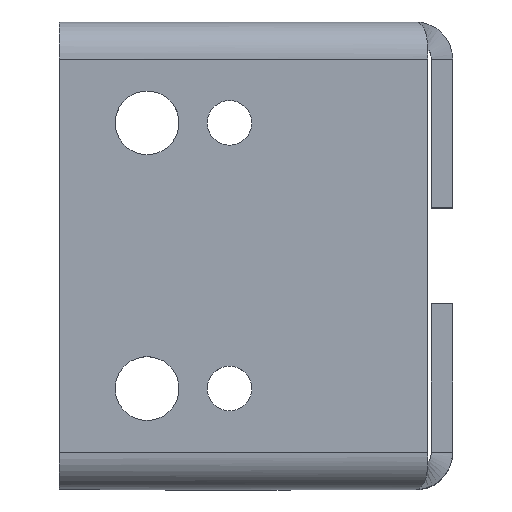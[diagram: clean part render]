
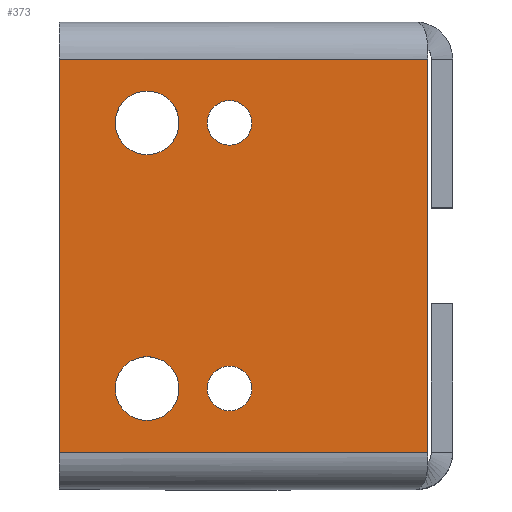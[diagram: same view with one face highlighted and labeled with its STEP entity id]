
A CAD part, top view. The second image highlights one B-rep face of the part: STEP entity #373.
In plain terms, the highlighted planar face has unit normal (0, 0, 1).
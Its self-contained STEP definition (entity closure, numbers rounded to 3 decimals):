
#19 = EDGE_CURVE ( 'NONE', #612, #613, #2312, .T. ) ;
#21 = EDGE_CURVE ( 'NONE', #616, #617, #2307, .T. ) ;
#26 = EDGE_CURVE ( 'NONE', #2523, #2581, #2482, .T. ) ;
#27 = EDGE_CURVE ( 'NONE', #2305, #2581, #2287, .T. ) ;
#28 = EDGE_CURVE ( 'NONE', #2596, #2523, #2292, .T. ) ;
#29 = EDGE_CURVE ( 'NONE', #2596, #2305, #2604, .T. ) ;
#30 = EDGE_CURVE ( 'NONE', #620, #621, #2700, .T. ) ;
#31 = EDGE_CURVE ( 'NONE', #600, #601, #2689, .T. ) ;
#179 = CARTESIAN_POINT ( 'NONE',  ( -10.25, -12.5, 0. ) ) ;
#180 = DIRECTION ( 'NONE',  ( 0., 0., 1. ) ) ;
#181 = DIRECTION ( 'NONE',  ( -1., 0., 0. ) ) ;
#221 = CARTESIAN_POINT ( 'NONE',  ( -2.5, 12.5, 0. ) ) ;
#222 = DIRECTION ( 'NONE',  ( 0., 0., 1. ) ) ;
#223 = DIRECTION ( 'NONE',  ( 1., 0., 0. ) ) ;
#299 = CARTESIAN_POINT ( 'NONE',  ( -2.5, -12.5, 0. ) ) ;
#300 = DIRECTION ( 'NONE',  ( 0., 0., 1. ) ) ;
#301 = DIRECTION ( 'NONE',  ( -1., 0., 0. ) ) ;
#339 = CARTESIAN_POINT ( 'NONE',  ( -10.25, 12.5, 0. ) ) ;
#373 = ADVANCED_FACE ( 'NONE', ( #2513, #2537, #2259, #2531, #2262 ), #1456, .F. ) ;
#461 = AXIS2_PLACEMENT_3D ( 'NONE', #179, #180, #181 ) ;
#470 = AXIS2_PLACEMENT_3D ( 'NONE', #221, #222, #223 ) ;
#498 = AXIS2_PLACEMENT_3D ( 'NONE', #339, #2969, #2864 ) ;
#526 = AXIS2_PLACEMENT_3D ( 'NONE', #299, #300, #301 ) ;
#600 = VERTEX_POINT ( 'NONE', #2118 ) ;
#601 = VERTEX_POINT ( 'NONE', #2117 ) ;
#612 = VERTEX_POINT ( 'NONE', #2133 ) ;
#613 = VERTEX_POINT ( 'NONE', #2123 ) ;
#616 = VERTEX_POINT ( 'NONE', #2139 ) ;
#617 = VERTEX_POINT ( 'NONE', #2129 ) ;
#620 = VERTEX_POINT ( 'NONE', #2150 ) ;
#621 = VERTEX_POINT ( 'NONE', #2149 ) ;
#645 = EDGE_LOOP ( 'NONE', ( #1084, #886 ) ) ;
#647 = EDGE_LOOP ( 'NONE', ( #1004, #1021, #1020, #1017 ) ) ;
#650 = EDGE_LOOP ( 'NONE', ( #1028, #1003 ) ) ;
#652 = EDGE_LOOP ( 'NONE', ( #885, #1079 ) ) ;
#750 = EDGE_LOOP ( 'NONE', ( #1080, #1043 ) ) ;
#885 = ORIENTED_EDGE ( 'NONE', *, *, #30, .F. ) ;
#886 = ORIENTED_EDGE ( 'NONE', *, *, #1841, .F. ) ;
#1003 = ORIENTED_EDGE ( 'NONE', *, *, #1801, .F. ) ;
#1004 = ORIENTED_EDGE ( 'NONE', *, *, #28, .F. ) ;
#1017 = ORIENTED_EDGE ( 'NONE', *, *, #26, .F. ) ;
#1020 = ORIENTED_EDGE ( 'NONE', *, *, #27, .T. ) ;
#1021 = ORIENTED_EDGE ( 'NONE', *, *, #29, .T. ) ;
#1028 = ORIENTED_EDGE ( 'NONE', *, *, #31, .F. ) ;
#1043 = ORIENTED_EDGE ( 'NONE', *, *, #1827, .F. ) ;
#1079 = ORIENTED_EDGE ( 'NONE', *, *, #1779, .F. ) ;
#1080 = ORIENTED_EDGE ( 'NONE', *, *, #21, .F. ) ;
#1084 = ORIENTED_EDGE ( 'NONE', *, *, #19, .F. ) ;
#1136 = CARTESIAN_POINT ( 'NONE',  ( -18.5, 18.5, 0. ) ) ;
#1167 = CARTESIAN_POINT ( 'NONE',  ( 16.146, -18.5, 0. ) ) ;
#1181 = CARTESIAN_POINT ( 'NONE',  ( -18.5, -18.5, 0. ) ) ;
#1184 = CARTESIAN_POINT ( 'NONE',  ( 16.146, 18.5, 0. ) ) ;
#1453 = DIRECTION ( 'NONE',  ( -1., 0., 0. ) ) ;
#1455 = CARTESIAN_POINT ( 'NONE',  ( 18.5, 22., 0. ) ) ;
#1456 = PLANE ( 'NONE',  #1720 ) ;
#1459 = DIRECTION ( 'NONE',  ( 0., 0., -1. ) ) ;
#1547 = DIRECTION ( 'NONE',  ( 1., 0., 0. ) ) ;
#1548 = DIRECTION ( 'NONE',  ( 0., 0., 1. ) ) ;
#1549 = CARTESIAN_POINT ( 'NONE',  ( -10.25, 12.5, 0. ) ) ;
#1552 = DIRECTION ( 'NONE',  ( -1., 0., 0. ) ) ;
#1553 = DIRECTION ( 'NONE',  ( 0., 0., 1. ) ) ;
#1554 = CARTESIAN_POINT ( 'NONE',  ( -2.5, -12.5, 0. ) ) ;
#1557 = DIRECTION ( 'NONE',  ( -1., 0., 0. ) ) ;
#1558 = CARTESIAN_POINT ( 'NONE',  ( 18.5, 18.5, 0. ) ) ;
#1559 = DIRECTION ( 'NONE',  ( 0., -1., 0. ) ) ;
#1560 = DIRECTION ( 'NONE',  ( 0., -1., 0. ) ) ;
#1561 = DIRECTION ( 'NONE',  ( -1., 0., 0. ) ) ;
#1562 = CARTESIAN_POINT ( 'NONE',  ( 18.5, -18.5, 0. ) ) ;
#1565 = CARTESIAN_POINT ( 'NONE',  ( 16.146, 70.826, 0. ) ) ;
#1571 = DIRECTION ( 'NONE',  ( -1., 0., 0. ) ) ;
#1572 = DIRECTION ( 'NONE',  ( 0., 0., 1. ) ) ;
#1573 = CARTESIAN_POINT ( 'NONE',  ( -10.25, -12.5, 0. ) ) ;
#1577 = CARTESIAN_POINT ( 'NONE',  ( -18.5, 22., 0. ) ) ;
#1578 = DIRECTION ( 'NONE',  ( 1., 0., 0. ) ) ;
#1579 = DIRECTION ( 'NONE',  ( 0., 0., 1. ) ) ;
#1580 = CARTESIAN_POINT ( 'NONE',  ( -2.5, 12.5, 0. ) ) ;
#1720 = AXIS2_PLACEMENT_3D ( 'NONE', #1455, #1459, #1453 ) ;
#1757 = AXIS2_PLACEMENT_3D ( 'NONE', #1573, #1572, #1571 ) ;
#1764 = AXIS2_PLACEMENT_3D ( 'NONE', #1549, #1548, #1547 ) ;
#1767 = AXIS2_PLACEMENT_3D ( 'NONE', #1580, #1579, #1578 ) ;
#1779 = EDGE_CURVE ( 'NONE', #621, #620, #2694, .T. ) ;
#1780 = AXIS2_PLACEMENT_3D ( 'NONE', #1554, #1553, #1552 ) ;
#1801 = EDGE_CURVE ( 'NONE', #601, #600, #2658, .T. ) ;
#1827 = EDGE_CURVE ( 'NONE', #617, #616, #2625, .T. ) ;
#1841 = EDGE_CURVE ( 'NONE', #613, #612, #2629, .T. ) ;
#2117 = CARTESIAN_POINT ( 'NONE',  ( -13.25, 12.5, 0. ) ) ;
#2118 = CARTESIAN_POINT ( 'NONE',  ( -7.25, 12.5, 0. ) ) ;
#2123 = CARTESIAN_POINT ( 'NONE',  ( -4.6, 12.5, 0. ) ) ;
#2129 = CARTESIAN_POINT ( 'NONE',  ( -13.25, -12.5, 0. ) ) ;
#2133 = CARTESIAN_POINT ( 'NONE',  ( -0.4, 12.5, 0. ) ) ;
#2139 = CARTESIAN_POINT ( 'NONE',  ( -7.25, -12.5, 0. ) ) ;
#2149 = CARTESIAN_POINT ( 'NONE',  ( -4.6, -12.5, 0. ) ) ;
#2150 = CARTESIAN_POINT ( 'NONE',  ( -0.4, -12.5, 0. ) ) ;
#2259 = FACE_BOUND ( 'NONE', #645, .T. ) ;
#2262 = FACE_OUTER_BOUND ( 'NONE', #647, .T. ) ;
#2287 = LINE ( 'NONE', #1577, #2650 ) ;
#2292 = LINE ( 'NONE', #1565, #2456 ) ;
#2293 = VECTOR ( 'NONE', #1557, 1000. ) ;
#2305 = VERTEX_POINT ( 'NONE', #1136 ) ;
#2307 = CIRCLE ( 'NONE', #1757, 3. ) ;
#2312 = CIRCLE ( 'NONE', #1767, 2.1 ) ;
#2331 = VECTOR ( 'NONE', #1561, 1000. ) ;
#2456 = VECTOR ( 'NONE', #1559, 1000. ) ;
#2482 = LINE ( 'NONE', #1562, #2331 ) ;
#2513 = FACE_BOUND ( 'NONE', #652, .T. ) ;
#2523 = VERTEX_POINT ( 'NONE', #1167 ) ;
#2531 = FACE_BOUND ( 'NONE', #650, .T. ) ;
#2537 = FACE_BOUND ( 'NONE', #750, .T. ) ;
#2581 = VERTEX_POINT ( 'NONE', #1181 ) ;
#2596 = VERTEX_POINT ( 'NONE', #1184 ) ;
#2604 = LINE ( 'NONE', #1558, #2293 ) ;
#2625 = CIRCLE ( 'NONE', #461, 3. ) ;
#2629 = CIRCLE ( 'NONE', #470, 2.1 ) ;
#2650 = VECTOR ( 'NONE', #1560, 1000. ) ;
#2658 = CIRCLE ( 'NONE', #498, 3. ) ;
#2689 = CIRCLE ( 'NONE', #1764, 3. ) ;
#2694 = CIRCLE ( 'NONE', #526, 2.1 ) ;
#2700 = CIRCLE ( 'NONE', #1780, 2.1 ) ;
#2864 = DIRECTION ( 'NONE',  ( 1., 0., 0. ) ) ;
#2969 = DIRECTION ( 'NONE',  ( 0., 0., 1. ) ) ;
